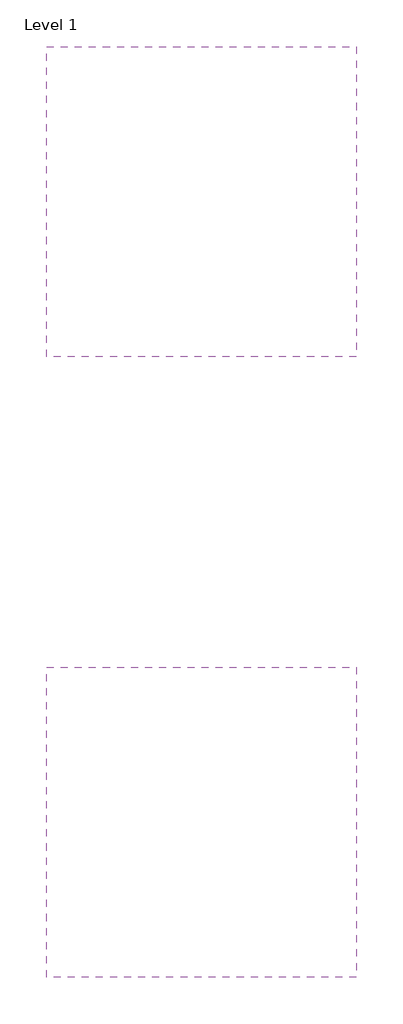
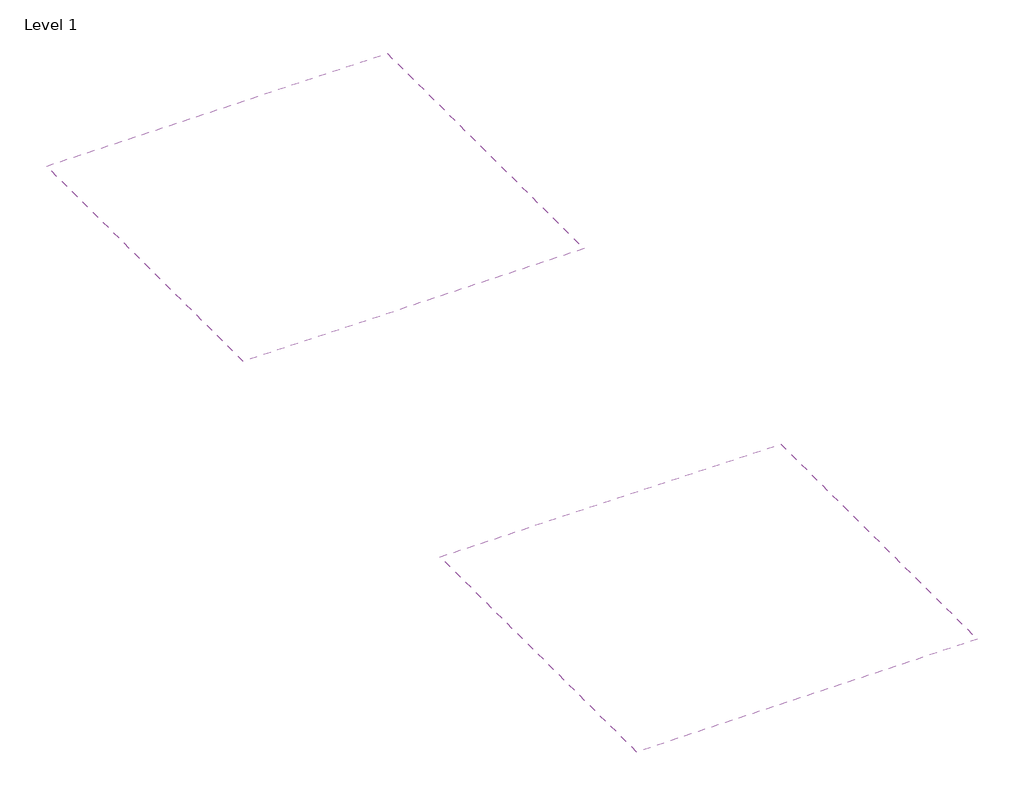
# One storey: 2 coverings.
"""IFC4 building model written with IfcOpenShell, lengths in millimetres."""

from ifc_helpers import new_model, si_unit, frame, origin, place, context, project, spatial, polyline, outline, extrude, element, save

model = new_model("IFC4")

# Units and contexts
model_context = context("Model", 3, world=origin())
ifc_project = project(units=[si_unit("LENGTHUNIT", "METRE", prefix="MILLI")], contexts=[model_context])

# Site, building, storey
site = spatial("IfcSite", under=ifc_project)
building = spatial("IfcBuilding", under=site)
storey = spatial("IfcBuildingStorey", under=building, Name="Level 1", Elevation=0.0)

# Coverings
placement = place(None, origin())
element("IfcCovering", 1, ObjectType="NBS_ArmstrongCeilingsLtd_UnitModularSuspendedCeilingSystem_Ultima+Vector-Prelude24Exposed_600x600x19mm_GB", at=placement, inside=storey, context=model_context, shape_type="SweptSolid", body=[
    extrude(outline(polyline([(2500.0, 7500.0), (2500.0, 5000.0), (0.0, 5000.0), (0.0, 7500.0), (2500.0, 7500.0)])), frame((0.0, 0.0, 2600.0), z_axis=(0.0, 0.0, 1.0), x_axis=(1.0, 0.0, 0.0)), (0.0, 0.0, 1.0), 53.0),
])
element("IfcCovering", 2, ObjectType="NBS_ArmstrongCeilingsLtd_UnitModularSuspendedCeilingSystem_Ultima+Vector-Prelude24Exposed_625x625x19mm_DE", at=placement, inside=storey, context=model_context, shape_type="SweptSolid", body=[
    extrude(outline(polyline([(2500.0, 2500.0), (2500.0, 0.0), (0.0, 0.0), (0.0, 2500.0), (2500.0, 2500.0)])), frame((0.0, 0.0, 2600.0), z_axis=(0.0, 0.0, 1.0), x_axis=(1.0, 0.0, 0.0)), (0.0, 0.0, 1.0), 53.0),
])

save(model, "model.ifc")
